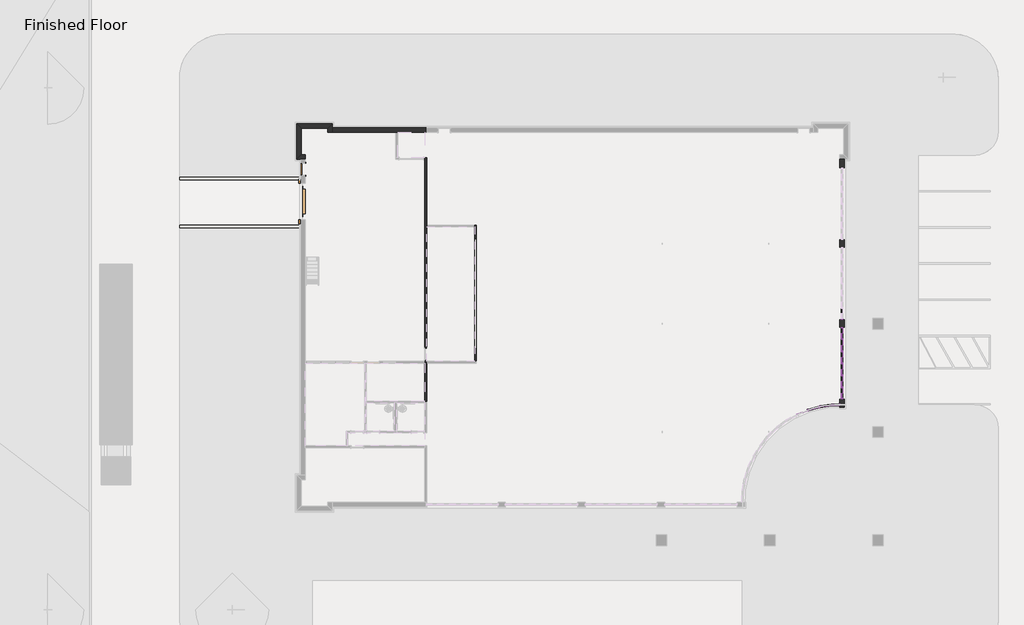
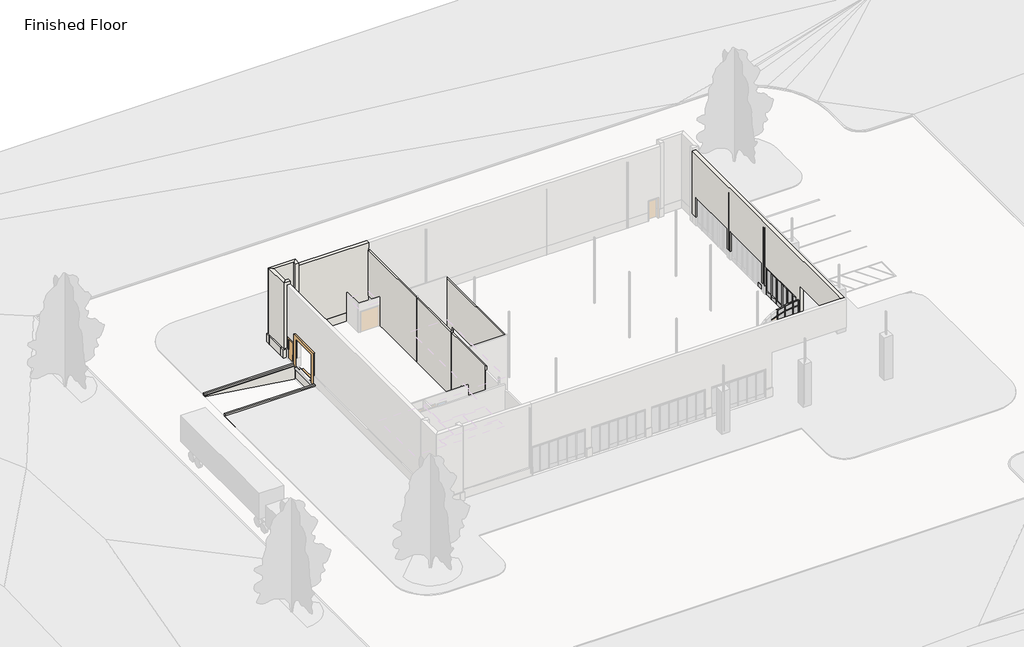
# One storey, part 4 of 7: 53 members, 18 plates, 16 walls, 2 doors.
"""IFC4 building model written with IfcOpenShell, lengths in millimetres."""

from ifc_helpers import new_model, si_unit, frame, origin, place, context, project, spatial, polyline, circle_curve, outline, extrude, faceted_brep, transform, mapped, element, save
from ifc_brep_helpers import plane_surface, revolved_surface, advanced_brep
from components import door_9096417d, door_632be17d, member_d2e7e466, member_7db1855a, member_a397ac22, member_d702d02f, member_57980dff, member_b5e65c95, member_069002c8, member_a75f139a, member_8a16213d, member_a608d019, member_c5eeba41, member_830eb86c, member_dbd57660, member_24c26854, member_d4789dbb, member_c17f1be2, member_ad567e07, member_7c546d85, rectangular_mullion_tall_mullion_dc5872ae, rectangular_mullion_tall_mullion_643de06f, system_panel_glazed_a343adf7, system_panel_glazed_9a2244e3, system_panel_glazed_6d8c8de5, system_panel_glazed_2d85ec54, system_panel_glazed_f449fc8c, system_panel_glazed_de0f3d3d, system_panel_glazed_0196836e, system_panel_glazed_685ee558

model = new_model("IFC4")

# Units and contexts
model_context = context("Model", 3, world=origin())
ifc_project = project(units=[si_unit("LENGTHUNIT", "METRE", prefix="MILLI")], contexts=[model_context])

# Site, building, storey
site = spatial("IfcSite", under=ifc_project)
building = spatial("IfcBuilding", under=site)
storey = spatial("IfcBuildingStorey", under=building, Name="Finished Floor", Elevation=0.0)

# Doors
placement = place(None, origin())
door_shape = door_9096417d(model_context)
element("IfcDoor", 1, ObjectType="OHD_WPADS_2491 : 8' x 6'-6\"", at=placement, inside=storey, context=model_context, shape_type="MappedRepresentation", body=[
    mapped(door_shape, transform((-22243.2602721, 8757.8686943, 0.0), x_axis=(0.0, -1.0, 0.0), y_axis=(1.0, 0.0, 0.0), z_axis=(0.0, 0.0, 1.0))),
])
door_2_shape = door_632be17d(model_context)
element("IfcDoor", 2, ObjectType="Single-Flush : 36\" x 84\"", at=placement, inside=storey, context=model_context, shape_type="MappedRepresentation", body=[
    mapped(door_2_shape, transform((-22243.2602721, 11196.2686943, 0.0), x_axis=(0.0, 1.0, 0.0), y_axis=(-1.0, 0.0, 0.0), z_axis=(0.0, 0.0, 1.0))),
])

# Members
member_shape = member_d2e7e466(model_context)
element("IfcMember", 3, ObjectType="Rectangular Mullion : 2.5\" x 5\" rectangular", at=placement, inside=storey, context=model_context, shape_type="MappedRepresentation", body=[
    mapped(member_shape, transform((18653.9147279, -3543.6688057, 3048.0), x_axis=(0.0, 0.0, 1.0), y_axis=(1.0, 0.0, 0.0), z_axis=(0.0, 1.0, 0.0))),
])
element("IfcMember", 4, ObjectType="Rectangular Mullion : 2.5\" x 5\" rectangular", at=placement, inside=storey, context=model_context, shape_type="MappedRepresentation", body=[
    mapped(member_shape, transform((18653.9147279, -2629.2688057, 3048.0), x_axis=(0.0, 0.0, 1.0), y_axis=(1.0, 0.0, 0.0), z_axis=(0.0, 1.0, 0.0))),
])
element("IfcMember", 5, ObjectType="Rectangular Mullion : 2.5\" x 5\" rectangular", at=placement, inside=storey, context=model_context, shape_type="MappedRepresentation", body=[
    mapped(member_shape, transform((18653.9147279, -1714.8688057, 3048.0), x_axis=(0.0, 0.0, 1.0), y_axis=(1.0, 0.0, 0.0), z_axis=(0.0, 1.0, 0.0))),
])
member_2_shape = member_7db1855a(model_context)
element("IfcMember", 6, ObjectType="Rectangular Mullion : 2.5\" x 5\" rectangular", at=placement, inside=storey, context=model_context, shape_type="MappedRepresentation", body=[
    mapped(member_2_shape, transform((18653.9147279, -2629.2688057, 2813.05), x_axis=(0.0, 0.0, 1.0), y_axis=(1.0, 0.0, 0.0), z_axis=(0.0, 1.0, 0.0))),
])
element("IfcMember", 7, ObjectType="Rectangular Mullion : 2.5\" x 5\" rectangular", at=placement, inside=storey, context=model_context, shape_type="MappedRepresentation", body=[
    mapped(member_2_shape, transform((18653.9147279, -1714.8688057, 2813.05), x_axis=(0.0, 0.0, 1.0), y_axis=(1.0, 0.0, 0.0), z_axis=(0.0, 1.0, 0.0))),
])
element("IfcMember", 8, ObjectType="Rectangular Mullion : 2.5\" x 5\" rectangular", at=placement, inside=storey, context=model_context, shape_type="MappedRepresentation", body=[
    mapped(member_shape, transform((18653.9147279, -4458.0688057, 3048.0), x_axis=(0.0, 0.0, 1.0), y_axis=(1.0, 0.0, 0.0), z_axis=(0.0, 1.0, 0.0))),
])
element("IfcMember", 9, ObjectType="Rectangular Mullion : 2.5\" x 5\" rectangular", at=placement, inside=storey, context=model_context, shape_type="MappedRepresentation", body=[
    mapped(member_shape, transform((18653.9147279, -5308.9688057, 0.0), x_axis=(0.0, 0.0, -1.0), y_axis=(1.0, 0.0, 0.0), z_axis=(0.0, -1.0, 0.0))),
])
element("IfcMember", 10, ObjectType="Rectangular Mullion : 2.5\" x 5\" rectangular", at=placement, inside=storey, context=model_context, shape_type="MappedRepresentation", body=[
    mapped(member_shape, transform((18653.9147279, -4394.5688057, 0.0), x_axis=(0.0, 0.0, -1.0), y_axis=(1.0, 0.0, 0.0), z_axis=(0.0, -1.0, 0.0))),
])
element("IfcMember", 11, ObjectType="Rectangular Mullion : 2.5\" x 5\" rectangular", at=placement, inside=storey, context=model_context, shape_type="MappedRepresentation", body=[
    mapped(member_2_shape, transform((18653.9147279, -4458.0688057, 2813.05), x_axis=(0.0, 0.0, 1.0), y_axis=(1.0, 0.0, 0.0), z_axis=(0.0, 1.0, 0.0))),
])
element("IfcMember", 12, ObjectType="Rectangular Mullion : 2.5\" x 5\" rectangular", at=placement, inside=storey, context=model_context, shape_type="MappedRepresentation", body=[
    mapped(member_2_shape, transform((18653.9147279, -3543.6688057, 2813.05), x_axis=(0.0, 0.0, 1.0), y_axis=(1.0, 0.0, 0.0), z_axis=(0.0, 1.0, 0.0))),
])
member_3_shape = member_a397ac22(model_context)
element("IfcMember", 13, ObjectType="Rectangular Mullion : 2.5\" x 5\" rectangular", at=placement, inside=storey, context=model_context, shape_type="MappedRepresentation", body=[
    mapped(member_3_shape, transform((16910.3461242, -6831.5128208, 3048.0), x_axis=(0.0, 0.0, 1.0), y_axis=(0.26796190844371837, -0.9634295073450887, 0.0), z_axis=(0.9634295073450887, 0.26796190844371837, 0.0))),
])
element("IfcMember", 14, ObjectType="Rectangular Mullion : 2.5\" x 5\" rectangular", at=placement, inside=storey, context=model_context, shape_type="MappedRepresentation", body=[
    mapped(member_3_shape, transform((17813.9991166, -6693.2741929, 3048.0), x_axis=(0.0, 0.0, 1.0), y_axis=(0.14697879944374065, -0.9891396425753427, 0.0), z_axis=(0.9891396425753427, 0.14697879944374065, 0.0))),
])
element("IfcMember", 15, ObjectType="Rectangular Mullion : 2.5\" x 5\" rectangular", at=placement, inside=storey, context=model_context, shape_type="MappedRepresentation", body=[
    mapped(member_3_shape, transform((16090.5639564, -7059.5216087, 0.0), x_axis=(0.0, 0.0, -1.0), y_axis=(0.2679619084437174, -0.963429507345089, 0.0), z_axis=(-0.963429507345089, -0.2679619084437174, 0.0))),
])
element("IfcMember", 16, ObjectType="Rectangular Mullion : 2.5\" x 5\" rectangular", at=placement, inside=storey, context=model_context, shape_type="MappedRepresentation", body=[
    mapped(member_3_shape, transform((16972.3401947, -6818.3384534, 0.0), x_axis=(0.0, 0.0, -1.0), y_axis=(0.14697879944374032, -0.9891396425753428, 0.0), z_axis=(-0.9891396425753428, -0.14697879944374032, 0.0))),
])
member_4_shape = member_d702d02f(model_context)
element("IfcMember", 17, ObjectType="Rectangular Mullion : 2.5\" x 5\" rectangular", at=placement, inside=storey, context=model_context, shape_type="MappedRepresentation", body=[
    mapped(member_4_shape, transform((16910.3461242, -6831.5128208, 2470.15), x_axis=(0.0, 0.0, 1.0), y_axis=(0.26796190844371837, -0.9634295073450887, 0.0), z_axis=(0.9634295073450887, 0.26796190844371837, 0.0))),
])
element("IfcMember", 18, ObjectType="Rectangular Mullion : 2.5\" x 5\" rectangular", at=placement, inside=storey, context=model_context, shape_type="MappedRepresentation", body=[
    mapped(member_4_shape, transform((17813.9991166, -6693.2741929, 2470.15), x_axis=(0.0, 0.0, 1.0), y_axis=(0.14697879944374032, -0.9891396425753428, 0.0), z_axis=(0.9891396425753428, 0.14697879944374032, 0.0))),
])
member_5_shape = member_57980dff(model_context)
element("IfcMember", 19, ObjectType="Rectangular Mullion : 2.5\" x 5\" rectangular", at=placement, inside=storey, context=model_context, shape_type="MappedRepresentation", body=[
    mapped(member_5_shape, transform((16059.9750695, -7068.0293993, 0.0), x_axis=(0.9450140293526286, 0.32702979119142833, 0.0), y_axis=(0.32702979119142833, -0.9450140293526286, 0.0), z_axis=(0.0, 0.0, -1.0))),
])
element("IfcMember", 20, ObjectType="Rectangular Mullion : 2.5\" x 5\" rectangular", at=placement, inside=storey, context=model_context, shape_type="MappedRepresentation", body=[
    mapped(member_5_shape, transform((16940.935011, -6823.0050302, 0.0), x_axis=(0.9781568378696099, 0.2078682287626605, 0.0), y_axis=(0.2078682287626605, -0.9781568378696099, 0.0), z_axis=(0.0, 0.0, -1.0))),
])
element("IfcMember", 21, ObjectType="Rectangular Mullion : 2.5\" x 5\" rectangular", at=placement, inside=storey, context=model_context, shape_type="MappedRepresentation", body=[
    mapped(member_5_shape, transform((17845.4043002, -6688.607616, 0.0), x_axis=(0.9963358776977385, 0.08552671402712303, 0.0), y_axis=(0.08552671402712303, -0.9963358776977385, 0.0), z_axis=(0.0, 0.0, -1.0))),
])
member_6_shape = member_b5e65c95(model_context)
element("IfcMember", 22, ObjectType="Rectangular Mullion : 2.5\" x 5\" rectangular", at=placement, inside=storey, context=model_context, shape_type="MappedRepresentation", body=[
    mapped(member_6_shape, transform((16059.9750695, -7068.0293993, 2470.15), x_axis=(0.9450140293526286, 0.32702979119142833, 0.0), y_axis=(0.32702979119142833, -0.9450140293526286, 0.0), z_axis=(0.0, 0.0, -1.0))),
])
element("IfcMember", 23, ObjectType="Rectangular Mullion : 2.5\" x 5\" rectangular", at=placement, inside=storey, context=model_context, shape_type="MappedRepresentation", body=[
    mapped(member_6_shape, transform((16940.935011, -6823.0050302, 2470.15), x_axis=(0.9781568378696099, 0.2078682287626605, 0.0), y_axis=(0.2078682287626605, -0.9781568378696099, 0.0), z_axis=(0.0, 0.0, -1.0))),
])
element("IfcMember", 24, ObjectType="Rectangular Mullion : 2.5\" x 5\" rectangular", at=placement, inside=storey, context=model_context, shape_type="MappedRepresentation", body=[
    mapped(member_6_shape, transform((17845.4043002, -6688.607616, 2470.15), x_axis=(0.9963358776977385, 0.08552671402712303, 0.0), y_axis=(0.08552671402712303, -0.9963358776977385, 0.0), z_axis=(0.0, 0.0, -1.0))),
])
member_7_shape = member_069002c8(model_context)
element("IfcMember", 25, ObjectType="Rectangular Mullion : 2.5\" x 5\" rectangular", at=placement, inside=storey, context=model_context, shape_type="MappedRepresentation", body=[
    mapped(member_7_shape, transform((18653.9147279, -3511.9188057, 0.0), x_axis=(0.0, 1.0, 0.0), y_axis=(1.0, 0.0, 0.0), z_axis=(0.0, 0.0, -1.0))),
])
element("IfcMember", 26, ObjectType="Rectangular Mullion : 2.5\" x 5\" rectangular", at=placement, inside=storey, context=model_context, shape_type="MappedRepresentation", body=[
    mapped(member_7_shape, transform((18653.9147279, -2597.5188057, 0.0), x_axis=(0.0, 1.0, 0.0), y_axis=(1.0, 0.0, 0.0), z_axis=(0.0, 0.0, -1.0))),
])
element("IfcMember", 27, ObjectType="Rectangular Mullion : 2.5\" x 5\" rectangular", at=placement, inside=storey, context=model_context, shape_type="MappedRepresentation", body=[
    mapped(member_7_shape, transform((18653.9147279, -1683.1188057, 0.0), x_axis=(0.0, 1.0, 0.0), y_axis=(1.0, 0.0, 0.0), z_axis=(0.0, 0.0, -1.0))),
])
member_8_shape = member_a75f139a(model_context)
element("IfcMember", 28, ObjectType="Rectangular Mullion : 2.5\" x 5\" rectangular", at=placement, inside=storey, context=model_context, shape_type="MappedRepresentation", body=[
    mapped(member_8_shape, transform((18653.9147279, -3511.9188057, 2813.05), x_axis=(0.0, 1.0, 0.0), y_axis=(1.0, 0.0, 0.0), z_axis=(0.0, 0.0, -1.0))),
])
element("IfcMember", 29, ObjectType="Rectangular Mullion : 2.5\" x 5\" rectangular", at=placement, inside=storey, context=model_context, shape_type="MappedRepresentation", body=[
    mapped(member_8_shape, transform((18653.9147279, -2597.5188057, 2813.05), x_axis=(0.0, 1.0, 0.0), y_axis=(1.0, 0.0, 0.0), z_axis=(0.0, 0.0, -1.0))),
])
element("IfcMember", 30, ObjectType="Rectangular Mullion : 2.5\" x 5\" rectangular", at=placement, inside=storey, context=model_context, shape_type="MappedRepresentation", body=[
    mapped(member_8_shape, transform((18653.9147279, -1683.1188057, 2813.05), x_axis=(0.0, 1.0, 0.0), y_axis=(1.0, 0.0, 0.0), z_axis=(0.0, 0.0, -1.0))),
])
element("IfcMember", 31, ObjectType="Rectangular Mullion : 2.5\" x 5\" rectangular", at=placement, inside=storey, context=model_context, shape_type="MappedRepresentation", body=[
    mapped(member_7_shape, transform((18653.9147279, -4426.3188057, 0.0), x_axis=(0.0, 1.0, 0.0), y_axis=(1.0, 0.0, 0.0), z_axis=(0.0, 0.0, -1.0))),
])
element("IfcMember", 32, ObjectType="Rectangular Mullion : 2.5\" x 5\" rectangular", at=placement, inside=storey, context=model_context, shape_type="MappedRepresentation", body=[
    mapped(member_7_shape, transform((18653.9147279, -5340.7188057, 0.0), x_axis=(0.0, 1.0, 0.0), y_axis=(1.0, 0.0, 0.0), z_axis=(0.0, 0.0, -1.0))),
])
element("IfcMember", 33, ObjectType="Rectangular Mullion : 2.5\" x 5\" rectangular", at=placement, inside=storey, context=model_context, shape_type="MappedRepresentation", body=[
    mapped(member_8_shape, transform((18653.9147279, -4426.3188057, 2813.05), x_axis=(0.0, 1.0, 0.0), y_axis=(1.0, 0.0, 0.0), z_axis=(0.0, 0.0, -1.0))),
])
element("IfcMember", 34, ObjectType="Rectangular Mullion : 2.5\" x 5\" rectangular", at=placement, inside=storey, context=model_context, shape_type="MappedRepresentation", body=[
    mapped(member_8_shape, transform((18653.9147279, -5340.7188057, 2813.05), x_axis=(0.0, 1.0, 0.0), y_axis=(1.0, 0.0, 0.0), z_axis=(0.0, 0.0, -1.0))),
])
member_9_shape = member_8a16213d(model_context)
element("IfcMember", 35, ObjectType="Rectangular Mullion : 2.5\" x 5\" rectangular", at=placement, inside=storey, context=model_context, shape_type="MappedRepresentation", body=[
    mapped(member_9_shape, transform((18653.9147279, -768.7188057, 0.0), x_axis=(0.0, 1.0, 0.0), y_axis=(1.0, 0.0, 0.0), z_axis=(0.0, 0.0, -1.0))),
])
member_10_shape = member_a608d019(model_context)
element("IfcMember", 36, ObjectType="Rectangular Mullion : 2.5\" x 5\" rectangular", at=placement, inside=storey, context=model_context, shape_type="MappedRepresentation", body=[
    mapped(member_10_shape, transform((18653.9147279, -768.7188057, 2813.05), x_axis=(0.0, 1.0, 0.0), y_axis=(1.0, 0.0, 0.0), z_axis=(0.0, 0.0, -1.0))),
])
element("IfcMember", 37, ObjectType="Rectangular Mullion : 2.5\" x 5\" rectangular", at=placement, inside=storey, context=model_context, shape_type="MappedRepresentation", body=[
    mapped(member_10_shape, transform((18653.9147279, -6255.1188057, 3048.0), x_axis=(0.0, -1.0, 0.0), y_axis=(1.0, 0.0, 0.0), z_axis=(0.0, 0.0, 1.0))),
])
element("IfcMember", 38, ObjectType="Rectangular Mullion : 2.5\" x 5\" rectangular", at=placement, inside=storey, context=model_context, shape_type="MappedRepresentation", body=[
    mapped(member_10_shape, transform((18653.9147279, -209.9188057, 3048.0), x_axis=(0.0, -1.0, 0.0), y_axis=(1.0, 0.0, 0.0), z_axis=(0.0, 0.0, 1.0))),
])
element("IfcMember", 39, ObjectType="Rectangular Mullion : 2.5\" x 5\" rectangular", at=placement, inside=storey, context=model_context, shape_type="MappedRepresentation", body=[
    mapped(member_9_shape, transform((18653.9147279, -6255.1188057, 2813.05), x_axis=(0.0, -1.0, 0.0), y_axis=(1.0, 0.0, 0.0), z_axis=(0.0, 0.0, 1.0))),
])
element("IfcMember", 40, ObjectType="Rectangular Mullion : 2.5\" x 5\" rectangular", at=placement, inside=storey, context=model_context, shape_type="MappedRepresentation", body=[
    mapped(member_9_shape, transform((18653.9147279, -209.9188057, 2813.05), x_axis=(0.0, -1.0, 0.0), y_axis=(1.0, 0.0, 0.0), z_axis=(0.0, 0.0, 1.0))),
])
member_11_shape = member_c5eeba41(model_context)
element("IfcMember", 41, ObjectType="Rectangular Mullion : 2.5\" x 5\" rectangular", at=placement, inside=storey, context=model_context, shape_type="MappedRepresentation", body=[
    mapped(member_11_shape, transform((18477.7022279, -6661.5188057, 0.0), x_axis=(0.9990835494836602, 0.04280258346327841, 0.0), y_axis=(0.04280258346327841, -0.9990835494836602, 0.0), z_axis=(0.0, 0.0, -1.0))),
])
member_12_shape = member_830eb86c(model_context)
element("IfcMember", 42, ObjectType="Rectangular Mullion : 2.5\" x 5\" rectangular", at=placement, inside=storey, context=model_context, shape_type="MappedRepresentation", body=[
    mapped(member_12_shape, transform((18477.7022279, -6661.5188057, 2470.15), x_axis=(0.9990835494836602, 0.042802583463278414, 0.0), y_axis=(0.042802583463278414, -0.9990835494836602, 0.0), z_axis=(0.0, 0.0, -1.0))),
])
member_13_shape = member_dbd57660(model_context)
element("IfcMember", 43, ObjectType="Rectangular Mullion : 2.5\" x 5\" rectangular", at=placement, inside=storey, context=model_context, shape_type="MappedRepresentation", body=[
    mapped(member_13_shape, transform((18414.2604225, -6664.2367697, 3048.0), x_axis=(0.0, 0.0, 1.0), y_axis=(0.042802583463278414, -0.9990835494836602, 0.0), z_axis=(0.99908354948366, 0.04280258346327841, 0.0))),
])
member_14_shape = member_24c26854(model_context)
element("IfcMember", 44, ObjectType="Rectangular Mullion : 2.5\" x 5\" rectangular", at=placement, inside=storey, context=model_context, shape_type="MappedRepresentation", body=[
    mapped(member_14_shape, transform((17877.1252029, -6687.248634, 0.0), x_axis=(0.0, 0.0, -1.0), y_axis=(0.04280258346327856, -0.9990835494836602, 0.0), z_axis=(-0.99908354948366, -0.04280258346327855, 0.0))),
])
member_15_shape = member_d4789dbb(model_context)
element("IfcMember", 45, ObjectType="Rectangular Mullion : 2.5\" x 5\" rectangular", at=placement, inside=storey, context=model_context, shape_type="MappedRepresentation", body=[
    mapped(member_15_shape, transform((18414.2604225, -6664.2367697, 2470.15), x_axis=(0.0, 0.0, 1.0), y_axis=(0.042802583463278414, -0.9990835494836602, 0.0), z_axis=(0.99908354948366, 0.04280258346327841, 0.0))),
])
member_16_shape = member_c17f1be2(model_context)
element("IfcMember", 46, ObjectType="Rectangular Mullion : 2.5\" x 5\" rectangular", at=placement, inside=storey, context=model_context, shape_type="MappedRepresentation", body=[
    mapped(member_16_shape, transform((18653.9147279, -832.2188057, 3048.0), x_axis=(0.0, 0.0, 1.0), y_axis=(1.0, 0.0, 0.0), z_axis=(0.0, 1.0, 0.0))),
])
member_17_shape = member_ad567e07(model_context)
element("IfcMember", 47, ObjectType="Rectangular Mullion : 2.5\" x 5\" rectangular", at=placement, inside=storey, context=model_context, shape_type="MappedRepresentation", body=[
    mapped(member_17_shape, transform((18653.9147279, -5372.4688057, 2813.05), x_axis=(0.0, 0.0, 1.0), y_axis=(1.0, 0.0, 0.0), z_axis=(0.0, 1.0, 0.0))),
])
element("IfcMember", 48, ObjectType="Rectangular Mullion : 2.5\" x 5\" rectangular", at=placement, inside=storey, context=model_context, shape_type="MappedRepresentation", body=[
    mapped(member_17_shape, transform((18653.9147279, -832.2188057, 2813.05), x_axis=(0.0, 0.0, 1.0), y_axis=(1.0, 0.0, 0.0), z_axis=(0.0, 1.0, 0.0))),
])
element("IfcMember", 49, ObjectType="Rectangular Mullion : 2.5\" x 5\" rectangular", at=placement, inside=storey, context=model_context, shape_type="MappedRepresentation", body=[
    mapped(member_16_shape, transform((18653.9147279, -5372.4688057, 3048.0), x_axis=(0.0, 0.0, 1.0), y_axis=(1.0, 0.0, 0.0), z_axis=(0.0, 1.0, 0.0))),
])
member_18_shape = member_7c546d85(model_context)
element("IfcMember", 50, ObjectType="Rectangular Mullion : 2.5\" x 5\" rectangular", at=placement, inside=storey, context=model_context, shape_type="MappedRepresentation", body=[
    mapped(member_18_shape, transform((16030.6704259, -7080.2482521, 2470.15), x_axis=(0.0, 0.0, 1.0), y_axis=(0.3848457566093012, -0.9229809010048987, 0.0), z_axis=(0.9229809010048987, 0.3848457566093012, 0.0))),
])
rectangular_mullion_tall_mullion_shape = rectangular_mullion_tall_mullion_dc5872ae(model_context)
element("IfcMember", 51, ObjectType="Rectangular Mullion : Tall Mullion", at=placement, inside=storey, context=model_context, shape_type="MappedRepresentation", body=[
    mapped(rectangular_mullion_tall_mullion_shape, transform((18653.9147279, -3480.1688057, 0.0), x_axis=(0.0, 0.0, -1.0), y_axis=(1.0, 0.0, 0.0), z_axis=(0.0, -1.0, 0.0))),
])
element("IfcMember", 52, ObjectType="Rectangular Mullion : Tall Mullion", at=placement, inside=storey, context=model_context, shape_type="MappedRepresentation", body=[
    mapped(rectangular_mullion_tall_mullion_shape, transform((18653.9147279, -2565.7688057, 0.0), x_axis=(0.0, 0.0, -1.0), y_axis=(1.0, 0.0, 0.0), z_axis=(0.0, -1.0, 0.0))),
])
rectangular_mullion_tall_mullion_2_shape = rectangular_mullion_tall_mullion_643de06f(model_context)
element("IfcMember", 53, ObjectType="Rectangular Mullion : Tall Mullion", at=placement, inside=storey, context=model_context, shape_type="MappedRepresentation", body=[
    mapped(rectangular_mullion_tall_mullion_2_shape, transform((18653.9147279, -6191.6188057, 0.0), x_axis=(0.0, 0.0, -1.0), y_axis=(1.0, 0.0, 0.0), z_axis=(0.0, -1.0, 0.0))),
])
element("IfcMember", 54, ObjectType="Rectangular Mullion : Tall Mullion", at=placement, inside=storey, context=model_context, shape_type="MappedRepresentation", body=[
    mapped(rectangular_mullion_tall_mullion_2_shape, transform((18653.9147279, -1651.3688057, 0.0), x_axis=(0.0, 0.0, -1.0), y_axis=(1.0, 0.0, 0.0), z_axis=(0.0, -1.0, 0.0))),
])
element("IfcMember", 55, ObjectType="Rectangular Mullion : Tall Mullion", at=placement, inside=storey, context=model_context, shape_type="MappedRepresentation", body=[
    mapped(rectangular_mullion_tall_mullion_2_shape, transform((18653.9147279, -146.4188057, 0.0), x_axis=(0.0, 0.0, -1.0), y_axis=(1.0, 0.0, 0.0), z_axis=(0.0, -1.0, 0.0))),
])

# Plates
system_panel_glazed_shape = system_panel_glazed_a343adf7(model_context)
element("IfcPlate", 56, ObjectType="System Panel : Glazed", at=placement, inside=storey, context=model_context, shape_type="MappedRepresentation", body=[
    mapped(system_panel_glazed_shape, transform((18653.9147279, -3054.7188057, 406.4), x_axis=(0.0, 1.0, 0.0), y_axis=(-1.0, 0.0, 0.0), z_axis=(0.0, 0.0, 1.0))),
])
element("IfcPlate", 57, ObjectType="System Panel : Glazed", at=placement, inside=storey, context=model_context, shape_type="MappedRepresentation", body=[
    mapped(system_panel_glazed_shape, transform((18653.9147279, -2140.3188057, 406.4), x_axis=(0.0, 1.0, 0.0), y_axis=(-1.0, 0.0, 0.0), z_axis=(0.0, 0.0, 1.0))),
])
element("IfcPlate", 58, ObjectType="System Panel : Glazed", at=placement, inside=storey, context=model_context, shape_type="MappedRepresentation", body=[
    mapped(system_panel_glazed_shape, transform((16500.4550403, -6945.5172148, 63.5), x_axis=(0.9634295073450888, 0.2679619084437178, 0.0), y_axis=(-0.2679619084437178, 0.9634295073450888, 0.0), z_axis=(0.0, 0.0, 1.0))),
])
element("IfcPlate", 59, ObjectType="System Panel : Glazed", at=placement, inside=storey, context=model_context, shape_type="MappedRepresentation", body=[
    mapped(system_panel_glazed_shape, transform((17393.1696556, -6755.8063231, 63.5), x_axis=(0.9891396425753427, 0.14697879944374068, 0.0), y_axis=(-0.14697879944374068, 0.9891396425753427, 0.0), z_axis=(0.0, 0.0, 1.0))),
])
system_panel_glazed_2_shape = system_panel_glazed_9a2244e3(model_context)
element("IfcPlate", 60, ObjectType="System Panel : Glazed", at=placement, inside=storey, context=model_context, shape_type="MappedRepresentation", body=[
    mapped(system_panel_glazed_2_shape, transform((18653.9147279, -3054.7188057, 2844.8), x_axis=(0.0, 1.0, 0.0), y_axis=(-1.0, 0.0, 0.0), z_axis=(0.0, 0.0, 1.0))),
])
element("IfcPlate", 61, ObjectType="System Panel : Glazed", at=placement, inside=storey, context=model_context, shape_type="MappedRepresentation", body=[
    mapped(system_panel_glazed_2_shape, transform((18653.9147279, -2140.3188057, 2844.8), x_axis=(0.0, 1.0, 0.0), y_axis=(-1.0, 0.0, 0.0), z_axis=(0.0, 0.0, 1.0))),
])
element("IfcPlate", 62, ObjectType="System Panel : Glazed", at=placement, inside=storey, context=model_context, shape_type="MappedRepresentation", body=[
    mapped(system_panel_glazed_2_shape, transform((18653.9147279, -3969.1188057, 2844.8), x_axis=(0.0, 1.0, 0.0), y_axis=(-1.0, 0.0, 0.0), z_axis=(0.0, 0.0, 1.0))),
])
element("IfcPlate", 63, ObjectType="System Panel : Glazed", at=placement, inside=storey, context=model_context, shape_type="MappedRepresentation", body=[
    mapped(system_panel_glazed_2_shape, transform((18653.9147279, -4883.5188057, 2844.8), x_axis=(0.0, 1.0, 0.0), y_axis=(-1.0, 0.0, 0.0), z_axis=(0.0, 0.0, 1.0))),
])
system_panel_glazed_3_shape = system_panel_glazed_6d8c8de5(model_context)
element("IfcPlate", 64, ObjectType="System Panel : Glazed", at=placement, inside=storey, context=model_context, shape_type="MappedRepresentation", body=[
    mapped(system_panel_glazed_3_shape, transform((18653.9147279, -3969.1188057, 63.5), x_axis=(0.0, 1.0, 0.0), y_axis=(-1.0, 0.0, 0.0), z_axis=(0.0, 0.0, 1.0))),
])
element("IfcPlate", 65, ObjectType="System Panel : Glazed", at=placement, inside=storey, context=model_context, shape_type="MappedRepresentation", body=[
    mapped(system_panel_glazed_3_shape, transform((18653.9147279, -4883.5188057, 63.5), x_axis=(0.0, 1.0, 0.0), y_axis=(-1.0, 0.0, 0.0), z_axis=(0.0, 0.0, 1.0))),
])
system_panel_glazed_4_shape = system_panel_glazed_2d85ec54(model_context)
element("IfcPlate", 66, ObjectType="System Panel : Glazed", at=placement, inside=storey, context=model_context, shape_type="MappedRepresentation", body=[
    mapped(system_panel_glazed_4_shape, transform((16500.4550403, -6945.5172148, 2501.9), x_axis=(0.9634295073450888, 0.26796190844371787, 0.0), y_axis=(-0.26796190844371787, 0.9634295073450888, 0.0), z_axis=(0.0, 0.0, 1.0))),
])
element("IfcPlate", 67, ObjectType="System Panel : Glazed", at=placement, inside=storey, context=model_context, shape_type="MappedRepresentation", body=[
    mapped(system_panel_glazed_4_shape, transform((17393.1696556, -6755.8063231, 2501.9), x_axis=(0.9891396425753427, 0.14697879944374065, 0.0), y_axis=(-0.14697879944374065, 0.9891396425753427, 0.0), z_axis=(0.0, 0.0, 1.0))),
])
system_panel_glazed_5_shape = system_panel_glazed_f449fc8c(model_context)
element("IfcPlate", 68, ObjectType="System Panel : Glazed", at=placement, inside=storey, context=model_context, shape_type="MappedRepresentation", body=[
    mapped(system_panel_glazed_5_shape, transform((18653.9147279, -5782.0438057, 406.4), x_axis=(0.0, 1.0, 0.0), y_axis=(-1.0, 0.0, 0.0), z_axis=(0.0, 0.0, 1.0))),
])
element("IfcPlate", 69, ObjectType="System Panel : Glazed", at=placement, inside=storey, context=model_context, shape_type="MappedRepresentation", body=[
    mapped(system_panel_glazed_5_shape, transform((18653.9147279, -1241.7938057, 406.4), x_axis=(0.0, 1.0, 0.0), y_axis=(-1.0, 0.0, 0.0), z_axis=(0.0, 0.0, 1.0))),
])
system_panel_glazed_6_shape = system_panel_glazed_de0f3d3d(model_context)
element("IfcPlate", 70, ObjectType="System Panel : Glazed", at=placement, inside=storey, context=model_context, shape_type="MappedRepresentation", body=[
    mapped(system_panel_glazed_6_shape, transform((18653.9147279, -5782.0438057, 2844.8), x_axis=(0.0, 1.0, 0.0), y_axis=(-1.0, 0.0, 0.0), z_axis=(0.0, 0.0, 1.0))),
])
element("IfcPlate", 71, ObjectType="System Panel : Glazed", at=placement, inside=storey, context=model_context, shape_type="MappedRepresentation", body=[
    mapped(system_panel_glazed_6_shape, transform((18653.9147279, -1241.7938057, 2844.8), x_axis=(0.0, 1.0, 0.0), y_axis=(-1.0, 0.0, 0.0), z_axis=(0.0, 0.0, 1.0))),
])
system_panel_glazed_7_shape = system_panel_glazed_0196836e(model_context)
element("IfcPlate", 72, ObjectType="System Panel : Glazed", at=placement, inside=storey, context=model_context, shape_type="MappedRepresentation", body=[
    mapped(system_panel_glazed_7_shape, transform((18145.6928127, -6675.7427019, 63.5), x_axis=(0.9990835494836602, 0.04280258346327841, 0.0), y_axis=(-0.04280258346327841, 0.9990835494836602, 0.0), z_axis=(0.0, 0.0, 1.0))),
])
system_panel_glazed_8_shape = system_panel_glazed_685ee558(model_context)
element("IfcPlate", 73, ObjectType="System Panel : Glazed", at=placement, inside=storey, context=model_context, shape_type="MappedRepresentation", body=[
    mapped(system_panel_glazed_8_shape, transform((18145.6928127, -6675.7427019, 2501.9), x_axis=(0.9990835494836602, 0.042802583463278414, 0.0), y_axis=(-0.042802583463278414, 0.9990835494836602, 0.0), z_axis=(0.0, 0.0, 1.0))),
])

# Walls
element("IfcWall", 74, ObjectType="Exterior - Brick on Mtl. Stud", at=placement, inside=storey, context=model_context, shape_type="Brep", body=[
    faceted_brep([(-20031.8727721, 13993.4436943, 914.4), (-12953.2102721, 13993.4436943, 914.4), (-12953.2102721, 13993.4436943, 7620.0), (-20031.8727721, 13993.4436943, 7620.0), (-20031.8727721, 14345.8686943, 914.4), (-20031.8727721, 14345.8686943, 7620.0), (-12953.2102721, 14345.8686943, 7620.0), (-12953.2102721, 14345.8686943, 914.4), (-12953.2102721, 14336.3436943, 914.4)], [[[0, 1, 2, 3]], [[4, 5, 6, 7]], [[1, 0, 4, 7, 8]], [[3, 2, 6, 5]], [[0, 3, 5, 4]], [[1, 8, 7, 6, 2]]]),
])
element("IfcWall", 75, ObjectType="Exterior - Brick on Mtl. Stud", at=placement, inside=storey, context=model_context, shape_type="AdvancedBrep", body=[
    advanced_brep(
    [(18477.7022279, -14054.5063057, 7620.0), (18477.7022279, 11958.2686943, 7620.0), (18477.7022279, 11958.2686943, 914.4), (18477.7022279, 11856.6686943, 914.4), (18477.7022279, 11321.6811943, 914.4), (18477.7022279, 11321.6811943, 3048.0), (18477.7022279, 5835.2811943, 3048.0), (18477.7022279, 5835.2811943, 914.4), (18477.7022279, 5276.4811943, 914.4), (18477.7022279, 5276.4811943, 3048.0), (18477.7022279, -209.9188057, 3048.0), (18477.7022279, -209.9188057, 914.4), (18477.7022279, -768.7188057, 914.4), (18477.7022279, -768.7188057, 3048.0), (18477.7022279, -6255.1188057, 3048.0), (18477.7022279, -6255.1188057, 914.4), (18477.7022279, -6837.7313057, 914.4), (18477.7022279, -6837.7313057, 3048.0), (18477.7022279, -6837.7313057, 4625.5040439), (18477.7022279, -14054.5063057, 4625.5040439), (18830.1272279, 11958.2686943, 7620.0), (18830.1272279, -14054.5063057, 7620.0), (18830.1272279, -14054.5063057, 4625.5040439), (18830.1272279, -6846.341628, 4625.5040439), (18830.1272279, -6846.341628, 914.4), (18830.1272279, -6255.1188057, 914.4), (18830.1272279, -6255.1188057, 3048.0), (18830.1272279, -768.7188057, 3048.0), (18830.1272279, -768.7188057, 914.4), (18830.1272279, -209.9188057, 914.4), (18830.1272279, -209.9188057, 3048.0), (18830.1272279, 5276.4811943, 3048.0), (18830.1272279, 5276.4811943, 914.4), (18830.1272279, 5835.2811943, 914.4), (18830.1272279, 5835.2811943, 3048.0), (18830.1272279, 11321.6811943, 3048.0), (18830.1272279, 11321.6811943, 914.4), (18830.1272279, 11958.2686943, 914.4)],
    [
        (0, 1),
        (1, 2),
        (2, 3),
        (3, 4),
        (4, 5),
        (5, 6),
        (6, 7),
        (7, 8),
        (8, 9),
        (9, 10),
        (10, 11),
        (11, 12),
        (12, 13),
        (13, 14),
        (14, 15),
        (15, 16),
        (16, 17),
        (17, 18),
        (18, 19),
        (19, 0),
        (20, 21),
        (21, 22),
        (22, 23),
        (23, 24),
        (24, 25),
        (25, 26),
        (26, 27),
        (27, 28),
        (28, 29),
        (29, 30),
        (30, 31),
        (31, 32),
        (32, 33),
        (33, 34),
        (34, 35),
        (35, 36),
        (36, 37),
        (37, 20),
        (6, 34),
        (33, 7),
        (5, 35),
        (4, 36),
        (10, 30),
        (29, 11),
        (9, 31),
        (8, 32),
        (14, 26),
        (25, 15),
        (13, 27),
        (12, 28),
        (0, 21),
        (20, 1),
        (2, 37),
        (24, 16, circle_curve(frame((18477.7022279, -14054.5063057, 914.4), z_axis=(0.0, 0.0, 1.0), x_axis=(1.0, 0.0, 0.0)), 7216.775)),
        (18, 23, circle_curve(frame((18477.7022279, -14054.5063057, 4625.5040439), z_axis=(0.0, 0.0, -1.0), x_axis=(1.0, 0.0, 0.0)), 7216.775)),
        (22, 19),
    ],
    [
        plane_surface(frame((18477.7022279, 12134.4811943, 7620.0), z_axis=(-1.0, 0.0, 0.0), x_axis=(0.0, 0.0, -1.0))),
        plane_surface(frame((18830.1272279, 12134.4811943, 7620.0), z_axis=(1.0, 0.0, 0.0), x_axis=(0.0, 0.0, 1.0))),
        plane_surface(frame((18325.3022279, 5835.2811943, 0.0), z_axis=(0.0, 1.0, 0.0), x_axis=(1.0, 0.0, 0.0))),
        plane_surface(frame((18325.3022279, 5835.2811943, 3048.0), z_axis=(0.0, 0.0, -1.0), x_axis=(1.0, 0.0, 0.0))),
        plane_surface(frame((18325.3022279, 11321.6811943, 3048.0), z_axis=(0.0, -1.0, 0.0), x_axis=(1.0, 0.0, 0.0))),
        plane_surface(frame((18325.3022279, -209.9188057, 0.0), z_axis=(0.0, 1.0, 0.0), x_axis=(1.0, 0.0, 0.0))),
        plane_surface(frame((18325.3022279, -209.9188057, 3048.0), z_axis=(0.0, 0.0, -1.0), x_axis=(1.0, 0.0, 0.0))),
        plane_surface(frame((18325.3022279, 5276.4811943, 3048.0), z_axis=(0.0, -1.0, 0.0), x_axis=(1.0, 0.0, 0.0))),
        plane_surface(frame((18325.3022279, -6255.1188057, 0.0), z_axis=(0.0, 1.0, 0.0), x_axis=(1.0, 0.0, 0.0))),
        plane_surface(frame((18325.3022279, -6255.1188057, 3048.0), z_axis=(0.0, 0.0, -1.0), x_axis=(1.0, 0.0, 0.0))),
        plane_surface(frame((18325.3022279, -768.7188057, 3048.0), z_axis=(0.0, -1.0, 0.0), x_axis=(1.0, 0.0, 0.0))),
        plane_surface(frame((18477.7022279, -14230.7188057, 7620.0), z_axis=(0.0, 0.0, 1.0), x_axis=(1.0, 0.0, 0.0))),
        plane_surface(frame((18477.7022279, 12134.4811943, 914.4), z_axis=(0.0, 0.0, -1.0), x_axis=(1.0, 0.0, 0.0))),
        plane_surface(frame((18477.7022279, -6663.6191241, 4625.5040439), z_axis=(0.0, 0.0, -1.0), x_axis=(1.0, 0.0, 0.0))),
        plane_surface(frame((-12953.2102721, -14054.5063057, 7620.0), z_axis=(0.0, -1.0, 0.0), x_axis=(1.0, 0.0, 0.0))),
        plane_surface(frame((19236.5272279, 11958.2686943, 914.4), z_axis=(0.0, 1.0, 0.0), x_axis=(1.0, 0.0, 0.0))),
        revolved_surface(polyline([(25694.477227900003, -14054.5063057, 914.4000000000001), (25694.477227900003, -14054.5063057, 4625.5040439)]), (18477.7022279, -14054.5063057, 4572.0), (0.0, 0.0, -1.0)),
    ],
    [
        (0, [[1, 2, 3, 4, 5, 6, 7, 8, 9, 10, 11, 12, 13, 14, 15, 16, 17, 18, 19, 20]]),
        (1, [[21, 22, 23, 24, 25, 26, 27, 28, 29, 30, 31, 32, 33, 34, 35, 36, 37, 38]]),
        (2, [[39, -34, 40, -7]]),
        (3, [[-39, -6, 41, -35]]),
        (4, [[-41, -5, 42, -36]]),
        (5, [[43, -30, 44, -11]]),
        (6, [[-43, -10, 45, -31]]),
        (7, [[-45, -9, 46, -32]]),
        (8, [[47, -26, 48, -15]]),
        (9, [[-47, -14, 49, -27]]),
        (10, [[-49, -13, 50, -28]]),
        (11, [[-1, 51, -21, 52]]),
        (12, [[-40, -33, -46, -8]]),
        (12, [[-44, -29, -50, -12]]),
        (12, [[-4, -3, 53, -37, -42]]),
        (12, [[54, -16, -48, -25]]),
        (13, [[-19, 55, -23, 56]]),
        (14, [[-20, -56, -22, -51]]),
        (15, [[-2, -52, -38, -53]]),
        (16, [[-18, -17, -54, -24, -55]]),
    ],
),
])
element("IfcWall", 76, ObjectType="Exterior - Brick on Mtl. Stud", at=placement, inside=storey, context=model_context, shape_type="SweptSolid", body=[
    extrude(outline(polyline([(-20031.8727721, 14650.6686943), (-20031.8727721, 13993.4436943), (-20384.2977721, 13993.4436943), (-20384.2977721, 14298.2436943), (-20031.8727721, 14650.6686943)])), frame((0.0, 0.0, 914.4), z_axis=(0.0, 0.0, 1.0), x_axis=(1.0, 0.0, 0.0)), (0.0, 0.0, 1.0), 7010.4),
])
element("IfcWall", 77, ObjectType="Exterior - Brick on Mtl. Stud", at=placement, inside=storey, context=model_context, shape_type="SweptSolid", body=[
    extrude(outline(polyline([(-22724.2727721, 14650.6686943), (-20031.8727721, 14650.6686943), (-20384.2977721, 14298.2436943), (-22371.8477721, 14298.2436943), (-22724.2727721, 14650.6686943)])), frame((0.0, 0.0, 914.4), z_axis=(0.0, 0.0, 1.0), x_axis=(1.0, 0.0, 0.0)), (0.0, 0.0, 1.0), 7010.4),
])
element("IfcWall", 78, ObjectType="Exterior - Brick on Mtl. Stud", at=placement, inside=storey, context=model_context, shape_type="SweptSolid", body=[
    extrude(outline(polyline([(-22724.2727721, 11958.2686943), (-22724.2727721, 14650.6686943), (-22371.8477721, 14298.2436943), (-22371.8477721, 12310.6936943), (-22724.2727721, 11958.2686943)])), frame((0.0, 0.0, 914.4), z_axis=(0.0, 0.0, 1.0), x_axis=(1.0, 0.0, 0.0)), (0.0, 0.0, 1.0), 7010.4),
])
element("IfcWall", 79, ObjectType="Exterior - Brick on Mtl. Stud", at=placement, inside=storey, context=model_context, shape_type="SweptSolid", body=[
    extrude(outline(polyline([(-22067.0477721, 11958.2686943), (-22724.2727721, 11958.2686943), (-22371.8477721, 12310.6936943), (-22067.0477721, 12310.6936943), (-22067.0477721, 11958.2686943)])), frame((0.0, 0.0, 914.4), z_axis=(0.0, 0.0, 1.0), x_axis=(1.0, 0.0, 0.0)), (0.0, 0.0, 1.0), 7010.4),
])
element("IfcWall", 80, ObjectType="Exterior - CMU", at=placement, inside=storey, context=model_context, shape_type="SweptSolid", body=[
    extrude(outline(polyline([(-22295.6477721, 6776.6686943), (-22295.6477721, 10612.0686943), (-22101.9727721, 10612.0686943), (-22101.9727721, 6776.6686943), (-22295.6477721, 6776.6686943)])), frame((0.0, 0.0, -1524.0), z_axis=(0.0, 0.0, 1.0), x_axis=(1.0, 0.0, 0.0)), (0.0, 0.0, 1.0), 1219.2),
])
element("IfcWall", 81, ObjectType="Exterior - CMU", at=placement, inside=storey, context=model_context, shape_type="SweptSolid", body=[
    extrude(outline(polyline([(-31624.494325, 10612.0686943), (-22521.0727721, 10612.0686943), (-22521.0727721, 10418.3936943), (-31624.494325, 10418.3936943), (-31624.494325, 10612.0686943)])), frame((0.0, 0.0, -1524.0), z_axis=(0.0, 0.0, 1.0), x_axis=(1.0, 0.0, 0.0)), (0.0, 0.0, 1.0), 1676.4),
])
element("IfcWall", 82, ObjectType="Exterior - CMU", at=placement, inside=storey, context=model_context, shape_type="SweptSolid", body=[
    extrude(outline(polyline([(-31624.494325, 6970.3436943), (-22521.0727721, 6970.3436943), (-22521.0727721, 6776.6686943), (-31624.494325, 6776.6686943), (-31624.494325, 6970.3436943)])), frame((0.0, 0.0, -1524.0), z_axis=(0.0, 0.0, 1.0), x_axis=(1.0, 0.0, 0.0)), (0.0, 0.0, 1.0), 1676.4),
])
element("IfcWall", 83, ObjectType="Exterior - CMU on Mtl. Stud", at=placement, inside=storey, context=model_context, shape_type="Brep", body=[
    faceted_brep([(-20031.8727721, 13993.4436943, 0.0), (-15205.8727721, 13993.4436943, 0.0), (-15085.2227721, 13993.4436943, 0.0), (-12953.2102721, 13993.4436943, 0.0), (-12953.2102721, 13993.4436943, 914.4), (-20031.8727721, 13993.4436943, 914.4), (-20031.8727721, 14447.4686943, 0.0), (-20031.8727721, 14447.4686943, 914.4), (-12953.2102721, 14447.4686943, 914.4), (-12953.2102721, 14447.4686943, 0.0), (-12953.2102721, 14253.7936943, 0.0), (-12953.2102721, 14345.8686943, 914.4), (-12953.2102721, 14336.3436943, 914.4), (-20031.8727721, 14345.8686943, 914.4), (-20031.8727721, 14336.3436943, 914.4), (-20031.8727721, 14253.7936943, 0.0)], [[[0, 1, 2, 3, 4, 5]], [[6, 7, 8, 9]], [[4, 3, 10, 9, 8, 11, 12]], [[5, 4, 12, 11, 8, 7, 13, 14]], [[0, 5, 14, 13, 7, 6, 15]], [[3, 2, 1, 0, 15, 10]], [[15, 6, 9, 10]]]),
])
element("IfcWall", 84, ObjectType="Exterior - CMU on Mtl. Stud", at=placement, inside=storey, context=model_context, shape_type="Brep", body=[
    faceted_brep([(-19930.2727721, 13993.4436943, 0.0), (-19930.2727721, 14752.2686943, 0.0), (-19930.2727721, 14752.2686943, 914.4), (-19930.2727721, 13993.4436943, 914.4), (-20384.2977721, 13993.4436943, 0.0), (-20384.2977721, 13993.4436943, 914.4), (-20384.2977721, 14298.2436943, 914.4), (-20384.2977721, 14752.2686943, 914.4), (-20384.2977721, 14752.2686943, 0.0), (-20384.2977721, 14298.2436943, 0.0), (-20041.3977721, 13993.4436943, 914.4), (-20031.8727721, 13993.4436943, 914.4), (-20123.9477721, 13993.4436943, 0.0), (-20123.9477721, 14752.2686943, 0.0)], [[[0, 1, 2, 3]], [[4, 5, 6, 7, 8, 9]], [[3, 2, 7, 6, 5, 10, 11]], [[0, 3, 11, 10, 5, 4, 12]], [[2, 1, 13, 8, 7]], [[12, 4, 9, 8, 13]], [[1, 0, 12, 13]]]),
])
element("IfcWall", 85, ObjectType="Exterior - CMU on Mtl. Stud", at=placement, inside=storey, context=model_context, shape_type="Brep", body=[
    faceted_brep([(-20384.2977721, 14752.2686943, 0.0), (-22825.8727721, 14752.2686943, 0.0), (-22825.8727721, 14752.2686943, 914.4), (-20384.2977721, 14752.2686943, 914.4), (-20384.2977721, 14298.2436943, 0.0), (-20384.2977721, 14298.2436943, 914.4), (-22371.8477721, 14298.2436943, 914.4), (-22825.8727721, 14298.2436943, 914.4), (-22825.8727721, 14298.2436943, 0.0), (-22371.8477721, 14298.2436943, 0.0), (-20384.2977721, 14558.5936943, 0.0), (-22825.8727721, 14558.5936943, 0.0)], [[[0, 1, 2, 3]], [[4, 5, 6, 7, 8, 9]], [[3, 2, 7, 6, 5]], [[0, 3, 5, 4, 10]], [[2, 1, 11, 8, 7]], [[10, 4, 9, 8, 11]], [[1, 0, 10, 11]]]),
])
element("IfcWall", 86, ObjectType="Exterior - CMU on Mtl. Stud", at=placement, inside=storey, context=model_context, shape_type="SweptSolid", body=[
    extrude(outline(polyline([(914.4, -22825.8727721), (0.0, -22825.8727721), (0.0, -22632.1977721), (0.0, -22371.8477721), (914.4, -22371.8477721), (914.4, -22825.8727721)])), frame((0.0, 12310.6936943, 0.0), z_axis=(0.0, 1.0, 0.0), x_axis=(0.0, 0.0, 1.0)), (0.0, 0.0, 1.0), 1987.55),
])
element("IfcWall", 87, ObjectType="Exterior - CMU on Mtl. Stud", at=placement, inside=storey, context=model_context, shape_type="Brep", body=[
    faceted_brep([(-22825.8727721, 11856.6686943, 0.0), (-22067.0477721, 11856.6686943, 0.0), (-22067.0477721, 11856.6686943, 914.4), (-22825.8727721, 11856.6686943, 914.4), (-22825.8727721, 12310.6936943, 0.0), (-22825.8727721, 12310.6936943, 914.4), (-22371.8477721, 12310.6936943, 914.4), (-22067.0477721, 12310.6936943, 914.4), (-22067.0477721, 12310.6936943, 0.0), (-22371.8477721, 12310.6936943, 0.0), (-22067.0477721, 12050.3436943, 0.0), (-22067.0477721, 11967.7936943, 914.4), (-22067.0477721, 11958.2686943, 914.4), (-22825.8727721, 12050.3436943, 0.0)], [[[0, 1, 2, 3]], [[4, 5, 6, 7, 8, 9]], [[2, 1, 10, 8, 7, 11, 12]], [[3, 2, 12, 11, 7, 6, 5]], [[0, 3, 5, 4, 13]], [[13, 4, 9, 8, 10]], [[1, 0, 13, 10]]]),
])
element("IfcWall", 88, ObjectType="Interior - 5 1/2\" Partition", at=placement, inside=storey, context=model_context, shape_type="Brep", body=[
    faceted_brep([(-9095.5852721, -3379.3625557, 0.0), (-9095.5852721, 6956.8499443, 0.0), (-9095.5852721, 6956.8499443, 6838.95), (-9095.5852721, -3379.3625557, 6838.95), (-9095.5852721, -2407.8125557, 914.4), (-9095.5852721, -2407.8125557, 2133.6), (-9095.5852721, 5921.7999443, 2133.6), (-9095.5852721, 5921.7999443, 914.4), (-9216.2352721, -3379.3625557, 0.0), (-9216.2352721, -3379.3625557, 6838.95), (-9216.2352721, 6956.8499443, 6838.95), (-9216.2352721, 6956.8499443, 0.0), (-9216.2352721, 6836.1999443, 0.0), (-9216.2352721, -2407.8125557, 914.4), (-9216.2352721, 5921.7999443, 914.4), (-9216.2352721, 5921.7999443, 2133.6), (-9216.2352721, -2407.8125557, 2133.6)], [[[0, 1, 2, 3], [4, 5, 6, 7]], [[8, 9, 10, 11, 12], [13, 14, 15, 16]], [[0, 3, 9, 8]], [[2, 1, 11, 10]], [[1, 0, 8, 12, 11]], [[3, 2, 10, 9]], [[5, 4, 13, 16]], [[6, 5, 16, 15]], [[7, 6, 15, 14]], [[4, 7, 14, 13]]]),
])
element("IfcWall", 89, ObjectType="Interior - 5 1/2\" Partition (1-hr)", at=placement, inside=storey, context=model_context, shape_type="Brep", body=[
    faceted_brep([(-12883.3602721, -6455.9375557, 0.0), (-12883.3602721, -3500.0125557, 0.0), (-12883.3602721, -3379.3625557, 0.0), (-12883.3602721, -3287.2875557, 0.0), (-12883.3602721, -3287.2875557, 2133.6), (-12883.3602721, -2372.8875557, 2133.6), (-12883.3602721, -2372.8875557, 0.0), (-12883.3602721, 6836.1999443, 0.0), (-12883.3602721, 6956.8499443, 0.0), (-12883.3602721, 12083.6811943, 0.0), (-12883.3602721, 12083.6811943, 1981.2), (-12883.3602721, 13993.4436943, 1981.2), (-12883.3602721, 13993.4436943, 6838.95), (-12883.3602721, -6455.9375557, 6838.95), (-12883.3602721, -6455.9375557, 6400.8), (-13023.0602721, -3287.2875557, 2133.6), (-13023.0602721, -3287.2875557, 0.0), (-13023.0602721, -3379.3625557, 0.0), (-13023.0602721, -3500.0125557, 0.0), (-13023.0602721, -6395.6125557, 0.0), (-13023.0602721, -6455.9375557, 0.0), (-13023.0602721, -6455.9375557, 6838.95), (-13023.0602721, 13993.4436943, 6838.95), (-13023.0602721, 13993.4436943, 1981.2), (-13023.0602721, 12083.6811943, 1981.2), (-13023.0602721, 12083.6811943, 0.0), (-13023.0602721, 11963.0311943, 0.0), (-13023.0602721, -2372.8875557, 0.0), (-13023.0602721, -2372.8875557, 2133.6)], [[[0, 1, 2, 3, 4, 5, 6, 7, 8, 9, 10, 11, 12, 13, 14]], [[15, 16, 17, 18, 19, 20, 21, 22, 23, 24, 25, 26, 27, 28]], [[13, 12, 22, 21]], [[11, 10, 24, 23]], [[20, 19, 18, 17, 16, 3, 2, 1, 0]], [[27, 26, 25, 9, 8, 7, 6]], [[6, 5, 28, 27]], [[5, 4, 15, 28]], [[4, 3, 16, 15]], [[10, 9, 25, 24]], [[12, 11, 23, 22]], [[13, 21, 20, 0, 14]]]),
])

save(model, "model.ifc")
